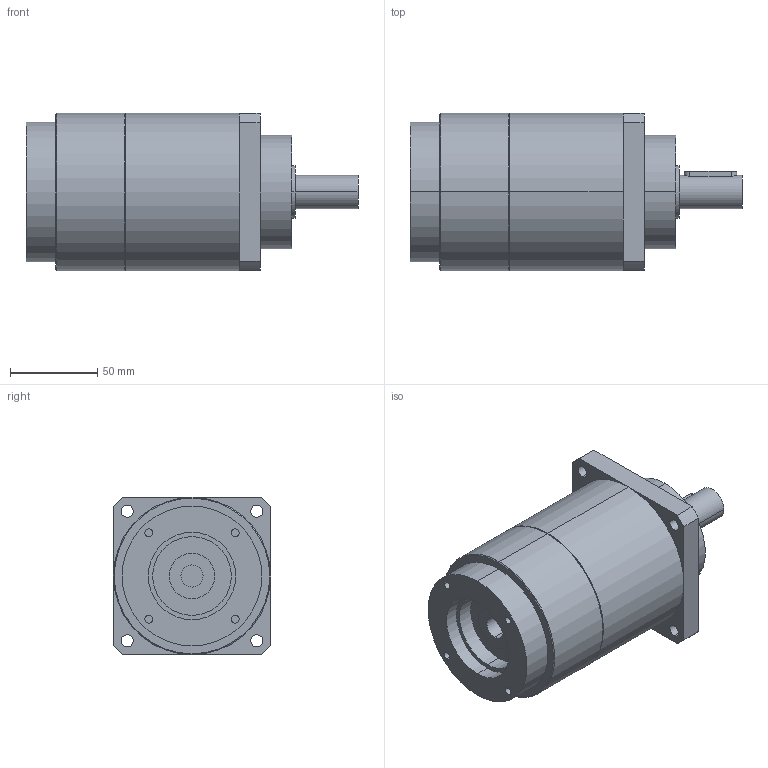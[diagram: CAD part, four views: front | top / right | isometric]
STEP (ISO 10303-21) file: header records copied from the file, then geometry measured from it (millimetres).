
FILE_DESCRIPTION(('CoCreate Modeling STEP Export'),'2;1');
FILE_NAME('GPT90_ig-9-12-16-20-25-28-35-40-50-70-100_19_B5T_12.7_P15.stp','2015-02-04T11:27:32',(''),(''),'CoCreate Modeling STEP processor for AP214 (Solid Model)','CoCreate Modeling 16.00C 25-Feb-2009 (C) Parametric Technology GmbH','');
FILE_SCHEMA(('AUTOMOTIVE_DESIGN { 1 0 10303 214 1 1 1 1 }'));
Length unit declared in the file: millimetre
Products named in the file (2): GPT90_ig-9-12-16-20-25-28-35-40-50-70-100_19_B5T_12.7_P15
Assembly tree (1 placements, depth 2):
  GPT90_ig-9-12-16-20-25-28-35-40-50-70-100_19_B5T_12.7_P15
    GPT90_ig-9-12-16-20-25-28-35-40-50-70-100_19_B5T_12.7_P15
Bounding box: 190 x 90 x 90 mm (x, y, z)
Volume: 885476.2 mm3; surface area: 66724.3 mm2
Topology: 1 solids, 1 shells, 75 faces, 190 edges, 131 vertices
Faces by surface type: cylinder 44, plane 27, cone 4
Entity records: 2388 total; most frequent: CARTESIAN_POINT 704, ORIENTED_EDGE 380, DIRECTION 282, EDGE_CURVE 190, VERTEX_POINT 131, AXIS2_PLACEMENT_3D 106, EDGE_LOOP 97, FACE_OUTER_BOUND 75
